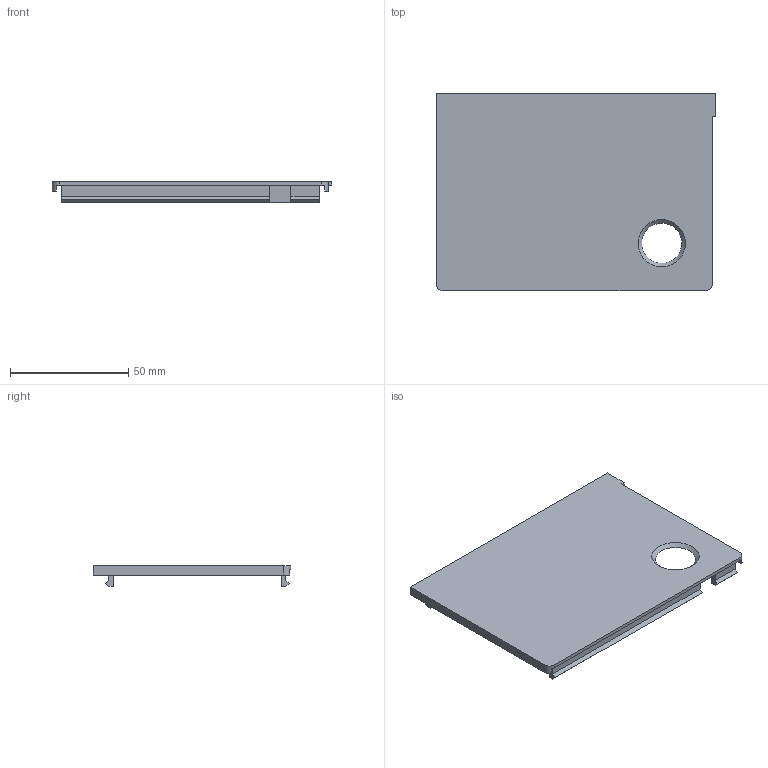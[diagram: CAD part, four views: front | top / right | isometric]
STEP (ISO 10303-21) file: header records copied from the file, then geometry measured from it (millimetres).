
FILE_DESCRIPTION(('STEP AP242 Edition 2','STEP AP242 Edition 2''CAx-IF Rec.Pracs.---Representation and Presentation of Product Manufacturing Information (PMI)---4.0---2014-10-13','STEP AP242 Edition 2''CAx-IF Rec.Pracs.---Representation and Presentation of Product Manufacturing Information (PMI)---4.0---2014-10-13''CAx-IF Rec.Pracs.---3D Tessellated Geometry---0.4---2014-09-14','STEP AP242 Edition 2''CAx-IF Rec.Pracs.---Representation and Presentation of Product Manufacturing Information (PMI)---4.0---2014-10-13''CAx-IF Rec.Pracs.---3D Tessellated Geometry---0.4---2014-09-14''2;1','STEP AP242 Edition 2''CAx-IF Rec.Pracs.---Representation and Presentation of Product Manufacturing Information (PMI)---4.0---2014-10-13''CAx-IF Rec.Pracs.---3D Tessellated Geometry---0.4---2014-09-14''2;1''CAx-IF Rec.Pracs.---User Defined Attributes---1.5---2016-08-15'),'2;1');
FILE_NAME('/vol/tmp/translate-371612670479758043/Case - Case Bottom Back.step','2026-03-18T15:31:29',(''),(''),'ST-DEVELOPER v20','ONSHAPE BY PTC INC, 1.212',' ');
FILE_SCHEMA(('AP242_MANAGED_MODEL_BASED_3D_ENGINEERING_MIM_LF { 1 0 10303 442 3 1 4 }'));
Length unit declared in the file: metre
Products named in the file (1): Case Bottom Back
Bounding box: 118.3 x 83.68 x 8.8 mm (x, y, z)
Volume: 18356.8 mm3; surface area: 23994.4 mm2
Topology: 1 solids, 1 shells, 37 faces, 96 edges, 64 vertices
Faces by surface type: plane 34, cylinder 2, cone 1
Entity records: 1139 total; most frequent: CARTESIAN_POINT 197, ORIENTED_EDGE 190, DIRECTION 179, EDGE_CURVE 95, LINE 87, VECTOR 87, VERTEX_POINT 64, AXIS2_PLACEMENT_3D 46
